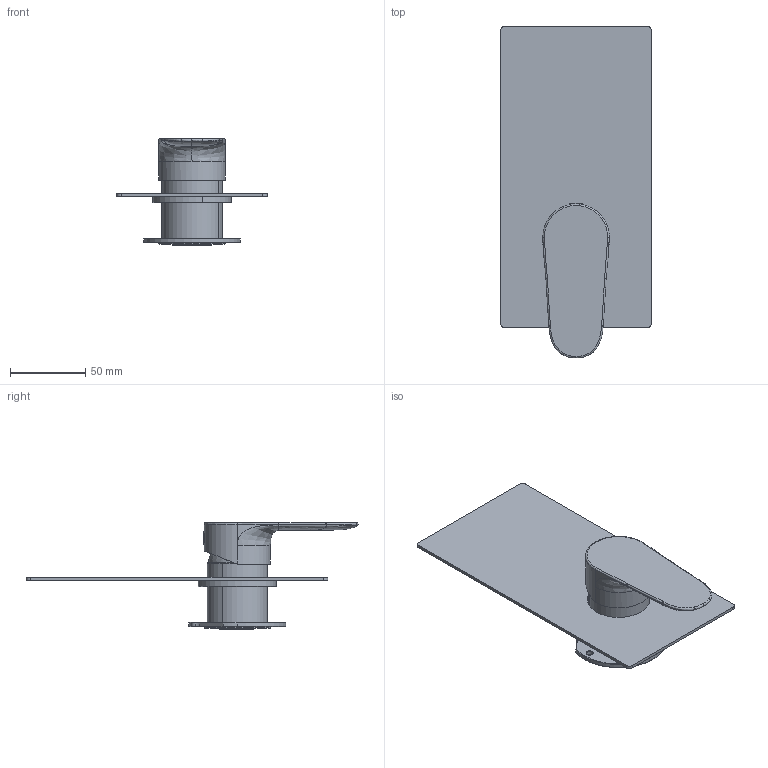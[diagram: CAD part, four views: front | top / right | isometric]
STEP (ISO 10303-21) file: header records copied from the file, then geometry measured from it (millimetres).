
FILE_DESCRIPTION (( 'STEP AP203' ), '1' );
FILE_NAME ('EMV1.STEP', '2024-01-31T09:23:34', ( '' ), ( '' ), 'SwSTEP 2.0', 'SolidWorks 2023', '' );
FILE_SCHEMA (( 'CONFIG_CONTROL_DESIGN' ));
Length unit declared in the file: millimetre
Products named in the file (12): C12.00.0057; C31.00.0006.01; AS1076; C25.2693.00; C47.00.0015; C24.1830.00.0; C25.2056.00.0; EMV1; AS747_00; C10.00.0015; C18.11.0013.01; C24.1837.00.0
Assembly tree (11 placements, depth 3):
  EMV1
    AS1076
      C25.2693.00
      C25.2056.00.0
    AS747_00
      C47.00.0015
      C10.00.0015
      C24.1830.00.0
      C12.00.0057
      C24.1837.00.0
      C31.00.0006.01
    C18.11.0013.01
Bounding box: 100 x 220 x 70.7 mm (x, y, z)
Volume: 120843.4 mm3; surface area: 90438.1 mm2
Topology: 10 solids, 10 shells, 425 faces, 1014 edges, 631 vertices
Faces by surface type: cylinder 157, plane 120, cone 69, bspline 65, torus 14
Entity records: 16229 total; most frequent: CARTESIAN_POINT 5336, DIRECTION 2036, ORIENTED_EDGE 2012, EDGE_CURVE 1006, AXIS2_PLACEMENT_3D 806, VERTEX_POINT 631, EDGE_LOOP 491, CIRCLE 430
